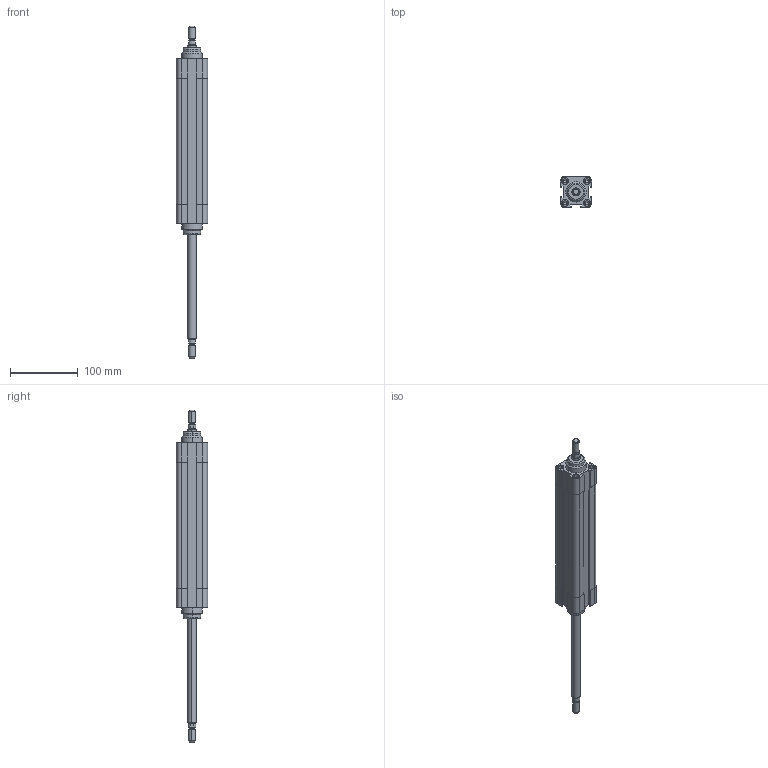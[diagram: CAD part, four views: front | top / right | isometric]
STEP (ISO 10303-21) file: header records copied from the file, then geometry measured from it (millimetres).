
FILE_DESCRIPTION((''),'2;1');
FILE_NAME('F:\Lib-3d\1380\CIL\1380_32_0150_02.stp','2004-01-07T15:59:00',('maffial1'),(''),'Autodesk Inventor 8','Autodesk Inventor 8','');
FILE_SCHEMA(('AUTOMOTIVE_DESIGN { 1 0 10303 214 1 1 1 1 }'));
Length unit declared in the file: millimetre
Products named in the file (3): 1380_32_0150_02; CPP04_32_150; CPP03_32_150
Assembly tree (2 placements, depth 2):
  1380_32_0150_02
    CPP04_32_150
    CPP03_32_150
Bounding box: 46 x 46 x 490 mm (x, y, z)
Volume: 491812.7 mm3; surface area: 94584.1 mm2
Topology: 2 solids, 2 shells, 236 faces, 564 edges, 356 vertices
Faces by surface type: plane 80, cylinder 66, bspline 62, cone 24, torus 4
Entity records: 7513 total; most frequent: CARTESIAN_POINT 2031, DIRECTION 1154, ORIENTED_EDGE 1096, EDGE_CURVE 548, AXIS2_PLACEMENT_3D 427, VERTEX_POINT 356, VECTOR 300, LINE 300
